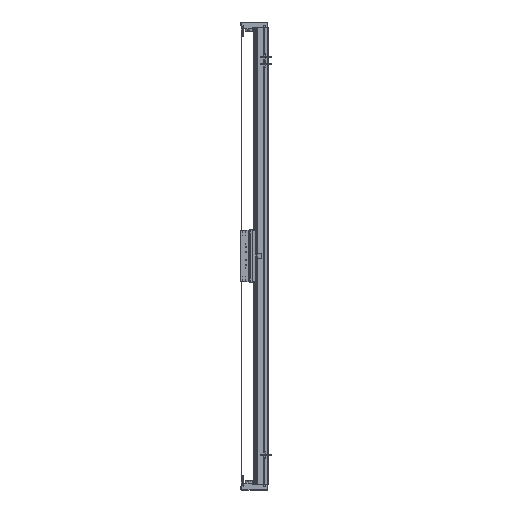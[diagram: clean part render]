
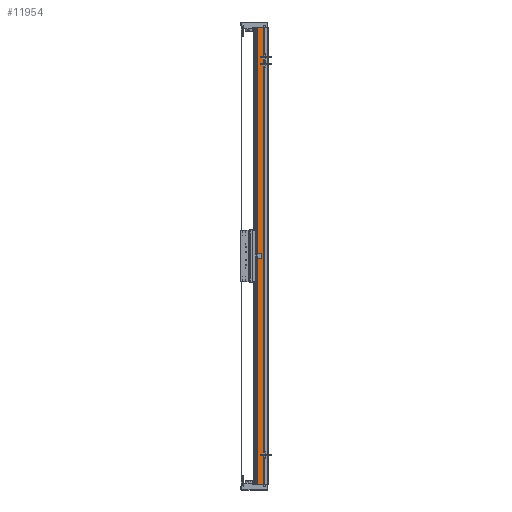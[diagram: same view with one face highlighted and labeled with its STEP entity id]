
A CAD part, left-side view. The second image highlights one B-rep face of the part: STEP entity #11954.
In plain terms, the highlighted planar face has unit normal (-1, 0, 0).
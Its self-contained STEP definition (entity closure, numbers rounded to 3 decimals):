
#3550 = VECTOR ( 'NONE', #43556, 1000. ) ;
#8288 = EDGE_CURVE ( 'NONE', #96919, #11201, #53855, .T. ) ;
#11201 = VERTEX_POINT ( 'NONE', #23556 ) ;
#11286 = DIRECTION ( 'NONE',  ( 0., 0., -1. ) ) ;
#11954 = ADVANCED_FACE ( 'NONE', ( #34603 ), #35218, .F. ) ;
#12271 = VERTEX_POINT ( 'NONE', #70513 ) ;
#13576 = EDGE_CURVE ( 'NONE', #100004, #96919, #97280, .T. ) ;
#13719 = CARTESIAN_POINT ( 'NONE',  ( -97.5, 36.95, 840. ) ) ;
#21378 = VECTOR ( 'NONE', #11286, 1000. ) ;
#23556 = CARTESIAN_POINT ( 'NONE',  ( -97.5, 14.45, -840. ) ) ;
#26132 = LINE ( 'NONE', #88402, #68262 ) ;
#28145 = EDGE_CURVE ( 'NONE', #100004, #12271, #26132, .T. ) ;
#34603 = FACE_OUTER_BOUND ( 'NONE', #55509, .T. ) ;
#34667 = DIRECTION ( 'NONE',  ( 0., -1., 0. ) ) ;
#35124 = ORIENTED_EDGE ( 'NONE', *, *, #8288, .T. ) ;
#35218 = PLANE ( 'NONE',  #100912 ) ;
#36413 = DIRECTION ( 'NONE',  ( 1., 0., 0. ) ) ;
#43556 = DIRECTION ( 'NONE',  ( 0., -1., 0. ) ) ;
#50613 = ORIENTED_EDGE ( 'NONE', *, *, #106299, .F. ) ;
#53855 = LINE ( 'NONE', #91085, #3550 ) ;
#55509 = EDGE_LOOP ( 'NONE', ( #35124, #50613, #66865, #118453 ) ) ;
#61793 = CARTESIAN_POINT ( 'NONE',  ( -97.5, 36.95, 840. ) ) ;
#66865 = ORIENTED_EDGE ( 'NONE', *, *, #28145, .F. ) ;
#68262 = VECTOR ( 'NONE', #34667, 1000. ) ;
#70513 = CARTESIAN_POINT ( 'NONE',  ( -97.5, 14.45, 840. ) ) ;
#72630 = DIRECTION ( 'NONE',  ( 0., 0., -1. ) ) ;
#77648 = CARTESIAN_POINT ( 'NONE',  ( -97.5, 36.95, -840. ) ) ;
#82575 = VECTOR ( 'NONE', #72630, 1000. ) ;
#88402 = CARTESIAN_POINT ( 'NONE',  ( -97.5, 36.95, 840. ) ) ;
#91085 = CARTESIAN_POINT ( 'NONE',  ( -97.5, 36.95, -840. ) ) ;
#96919 = VERTEX_POINT ( 'NONE', #77648 ) ;
#97280 = LINE ( 'NONE', #13719, #21378 ) ;
#100004 = VERTEX_POINT ( 'NONE', #61793 ) ;
#100912 = AXIS2_PLACEMENT_3D ( 'NONE', #108465, #36413, #117643 ) ;
#106299 = EDGE_CURVE ( 'NONE', #12271, #11201, #119049, .T. ) ;
#108465 = CARTESIAN_POINT ( 'NONE',  ( -97.5, 36.95, 840. ) ) ;
#117643 = DIRECTION ( 'NONE',  ( 0., 1., 0. ) ) ;
#118453 = ORIENTED_EDGE ( 'NONE', *, *, #13576, .T. ) ;
#119049 = LINE ( 'NONE', #119641, #82575 ) ;
#119641 = CARTESIAN_POINT ( 'NONE',  ( -97.5, 14.45, 840. ) ) ;
